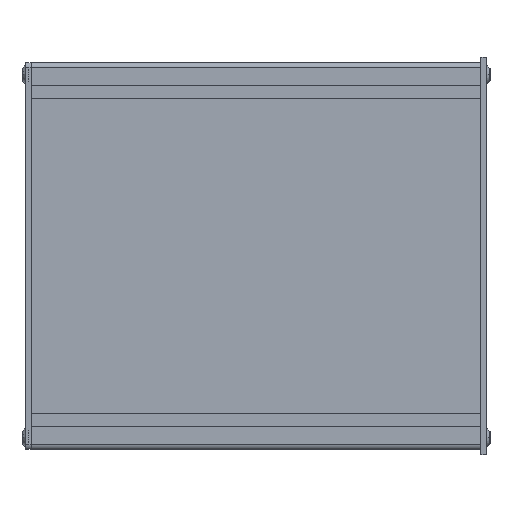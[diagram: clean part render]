
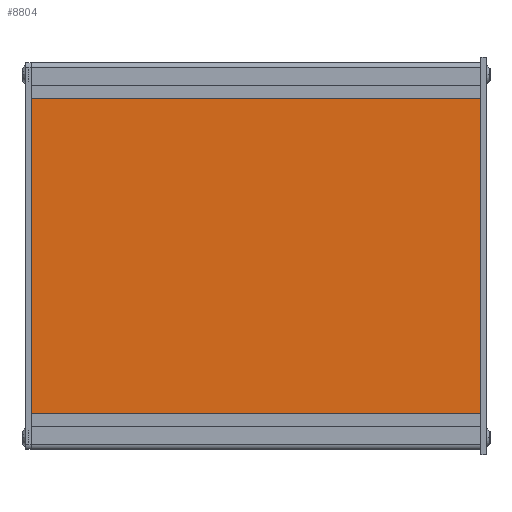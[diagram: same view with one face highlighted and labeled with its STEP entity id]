
A CAD part, left-side view. The second image highlights one B-rep face of the part: STEP entity #8804.
In plain terms, the highlighted planar face has unit normal (-1, 0, 0).
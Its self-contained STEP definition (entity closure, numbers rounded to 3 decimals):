
#972=PLANE('',#9674);
#1268=FACE_OUTER_BOUND('',#1814,.T.);
#1814=EDGE_LOOP('',(#6737,#6738,#6739,#6740));
#2614=LINE('',#13918,#3304);
#2624=LINE('',#13939,#3314);
#2625=LINE('',#13941,#3315);
#2626=LINE('',#13942,#3316);
#3304=VECTOR('',#11148,10.);
#3314=VECTOR('',#11166,10.);
#3315=VECTOR('',#11167,10.);
#3316=VECTOR('',#11168,10.);
#4330=VERTEX_POINT('',#13911);
#4333=VERTEX_POINT('',#13916);
#4340=VERTEX_POINT('',#13938);
#4341=VERTEX_POINT('',#13940);
#5197=EDGE_CURVE('',#4330,#4333,#2614,.T.);
#5207=EDGE_CURVE('',#4330,#4340,#2624,.T.);
#5208=EDGE_CURVE('',#4341,#4333,#2625,.T.);
#5209=EDGE_CURVE('',#4340,#4341,#2626,.T.);
#6737=ORIENTED_EDGE('',*,*,#5207,.F.);
#6738=ORIENTED_EDGE('',*,*,#5197,.T.);
#6739=ORIENTED_EDGE('',*,*,#5208,.F.);
#6740=ORIENTED_EDGE('',*,*,#5209,.F.);
#8804=ADVANCED_FACE('',(#1268),#972,.T.);
#9674=AXIS2_PLACEMENT_3D('',#13937,#11164,#11165);
#11148=DIRECTION('',(0.,1.,0.));
#11164=DIRECTION('center_axis',(-1.,0.,0.));
#11165=DIRECTION('ref_axis',(0.,0.,1.));
#11166=DIRECTION('',(0.,0.,-1.));
#11167=DIRECTION('',(0.,0.,1.));
#11168=DIRECTION('',(0.,1.,0.));
#13911=CARTESIAN_POINT('',(239.,0.,25.8));
#13916=CARTESIAN_POINT('',(239.,200.,25.8));
#13918=CARTESIAN_POINT('',(239.,0.,25.8));
#13937=CARTESIAN_POINT('Origin',(239.,0.,-113.9));
#13938=CARTESIAN_POINT('',(239.,0.,-113.9));
#13939=CARTESIAN_POINT('',(239.,0.,-44.05));
#13940=CARTESIAN_POINT('',(239.,200.,-113.9));
#13941=CARTESIAN_POINT('',(239.,200.,-44.05));
#13942=CARTESIAN_POINT('',(239.,0.,-113.9));
